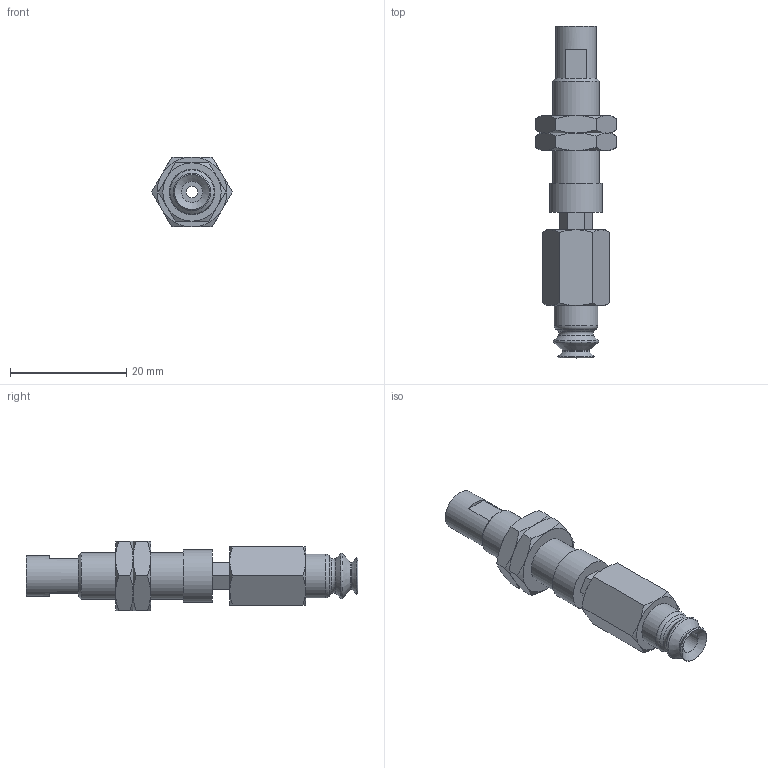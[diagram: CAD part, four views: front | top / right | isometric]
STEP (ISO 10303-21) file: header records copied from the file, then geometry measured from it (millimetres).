
FILE_DESCRIPTION(('STEP AP203'),'1');
FILE_NAME('.stp','2025-08-27T06:15:56',(' '),(' '),'Spatial InterOp 3D',' ',' ');
FILE_SCHEMA(('CONFIG_CONTROL_DESIGN'));
Length unit declared in the file: millimetre
Products named in the file (6): BNABPJTH-6-3-※; ADAPTER; NAPATH-10A-3--M; NAPJH-6-3-NUT; NAPJTH-6-3-FBODY; BPJG-6-※
Assembly tree (6 placements, depth 2):
  BNABPJTH-6-3-※
    ADAPTER
    NAPATH-10A-3--M
    NAPJH-6-3-NUT  x2
    NAPJTH-6-3-FBODY
    BPJG-6-※
Bounding box: 13.86 x 57 x 12 mm (x, y, z)
Volume: 3285.9 mm3; surface area: 3883.1 mm2
Topology: 6 solids, 6 shells, 125 faces, 274 edges, 166 vertices
Faces by surface type: plane 51, cone 49, cylinder 14, torus 11
Full cylindrical faces by diameter (mm): 2 x2, 3.64 x1, 4 x2, 4.134 x1, 6 x2, 7 x1, 7.188 x2, 7.5 x1, 8 x1, 9 x1
Entity records: 3020 total; most frequent: CARTESIAN_POINT 703, DIRECTION 422, ORIENTED_EDGE 358, AXIS2_PLACEMENT_3D 182, EDGE_CURVE 179, EDGE_LOOP 152, VERTEX_POINT 127, FACE_OUTER_BOUND 126
